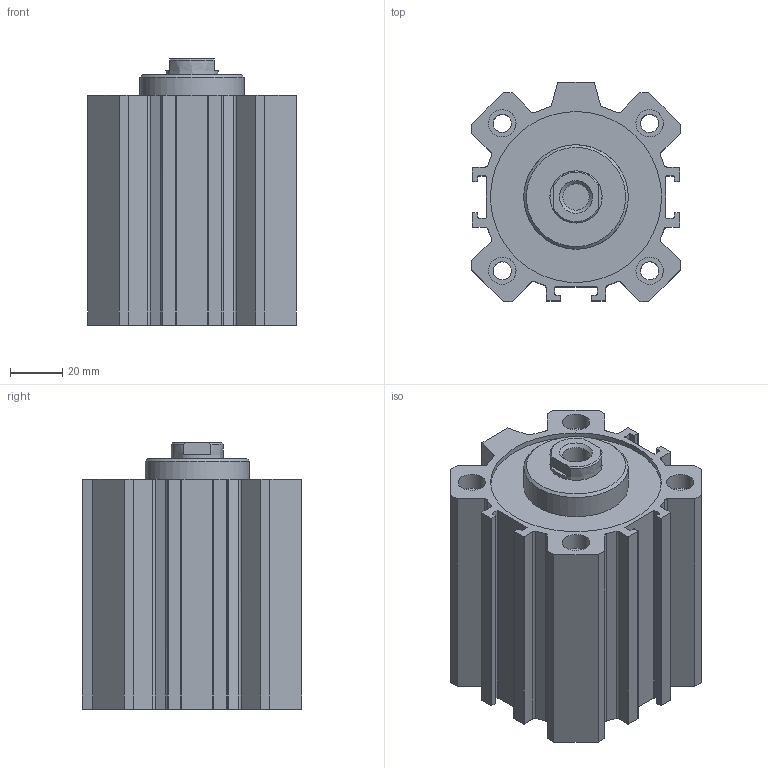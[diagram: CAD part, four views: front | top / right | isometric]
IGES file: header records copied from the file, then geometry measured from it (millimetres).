
Global section: file name: 1511_63_0045; native system: Autodesk Inventor 2014; preprocessor: unknown; author: A. Manieri; date: 20160824.140128; units: millimetre
Bounding box: 80 x 84 x 102 mm (x, y, z)
Volume: 330414.1 mm3; surface area: 90668.6 mm2
Topology: 2 solids, 2 shells, 165 faces, 443 edges, 300 vertices
Faces by surface type: bspline 165
